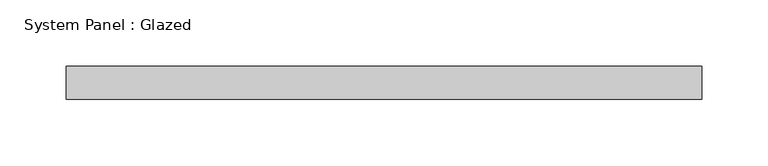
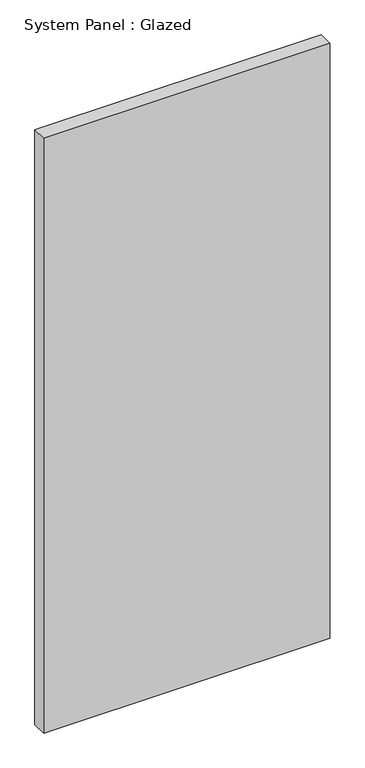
"""IFC4 building model written with IfcOpenShell, lengths in millimetres: plate geometry, System Panel : Glazed."""

from ifc_helpers import new_model, si_unit, origin, origin_with_axes, place, context, project, spatial, polyline, outline, extrude, source, transform, mapped, element, save


def system_panel_glazed_7ff83298(model_context):
    return source(origin(), model_context, "Body", "SweptSolid", [
        extrude(outline(polyline([(240.0, -12.5), (-240.0, -12.5), (-240.0, 12.5), (240.0, 12.5), (240.0, -12.5)])), origin_with_axes(), (0.0, 0.0, 1.0), 1055.0),
    ])


if __name__ == "__main__":
    model = new_model("IFC4")
    model_context = context("Model", 3, world=origin())
    ifc_project = project(units=[si_unit("LENGTHUNIT", "METRE", prefix="MILLI")], contexts=[model_context])
    site = spatial("IfcSite", under=ifc_project)
    building = spatial("IfcBuilding", under=site)
    placement = place(None, origin())
    system_panel_glazed_shape = system_panel_glazed_7ff83298(model_context)
    element("IfcPlate", 1, ObjectType="System Panel : Glazed", at=placement, inside=building, context=model_context, shape_type="MappedRepresentation", body=[
        mapped(system_panel_glazed_shape, transform((0.0, 0.0, 0.0), x_axis=(1.0, 0.0, 0.0), y_axis=(0.0, 1.0, 0.0), z_axis=(0.0, 0.0, 1.0))),
    ])
    save(model, "model.ifc")
